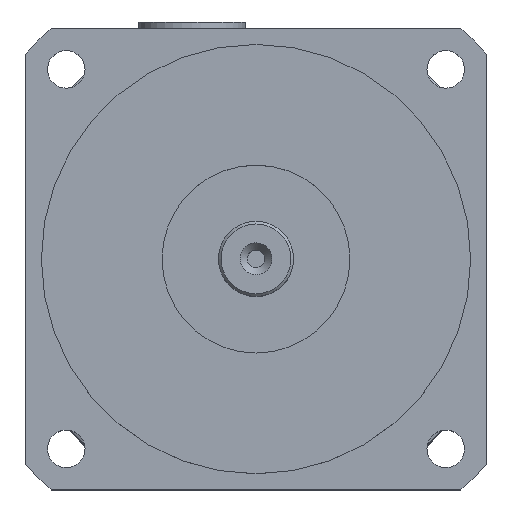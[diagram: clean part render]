
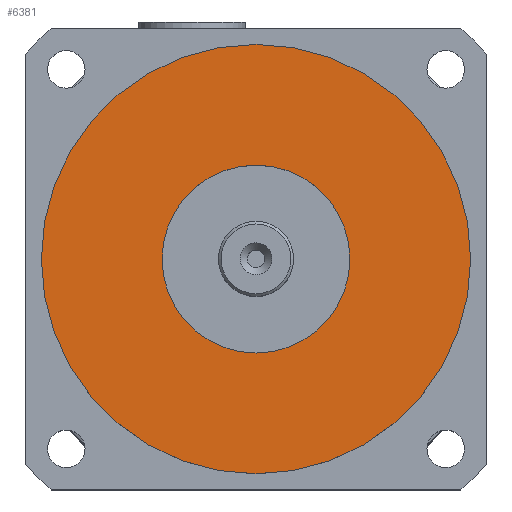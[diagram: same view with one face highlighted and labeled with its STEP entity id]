
A CAD part, top view. The second image highlights one B-rep face of the part: STEP entity #6381.
In plain terms, the highlighted planar face has unit normal (0, 0, 1).
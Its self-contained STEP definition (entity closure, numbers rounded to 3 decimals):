
#2428=VERTEX_POINT('',#9695);
#2429=VERTEX_POINT('',#9699);
#2866=CIRCLE('',#6908,17.5);
#2867=CIRCLE('',#6911,40.);
#3321=EDGE_CURVE('',#2428,#2428,#2866,.T.);
#3322=EDGE_CURVE('',#2429,#2429,#2867,.T.);
#4271=ORIENTED_EDGE('',*,*,#3322,.F.);
#4272=ORIENTED_EDGE('',*,*,#3321,.T.);
#5512=EDGE_LOOP('',(#4271));
#5513=EDGE_LOOP('',(#4272));
#5966=FACE_BOUND('',#5512,.T.);
#5967=FACE_BOUND('',#5513,.T.);
#6381=ADVANCED_FACE('',(#5966,#5967),#7889,.F.);
#6908=AXIS2_PLACEMENT_3D('',#9694,#12760,#12761);
#6911=AXIS2_PLACEMENT_3D('',#9698,#12765,#12766);
#6913=AXIS2_PLACEMENT_3D('',#9702,#12769,$);
#7889=PLANE('',#6913);
#9694=CARTESIAN_POINT('',(0.,0.,177.));
#9695=CARTESIAN_POINT('',(17.5,0.,177.));
#9698=CARTESIAN_POINT('',(0.,0.,177.));
#9699=CARTESIAN_POINT('',(40.,0.,177.));
#9702=CARTESIAN_POINT('',(0.,0.,177.));
#12760=DIRECTION('',(0.,0.,-1.));
#12761=DIRECTION('',(-17.5,0.,0.));
#12765=DIRECTION('',(0.,0.,-1.));
#12766=DIRECTION('',(-40.,0.,0.));
#12769=DIRECTION('',(0.,0.,-1.));
